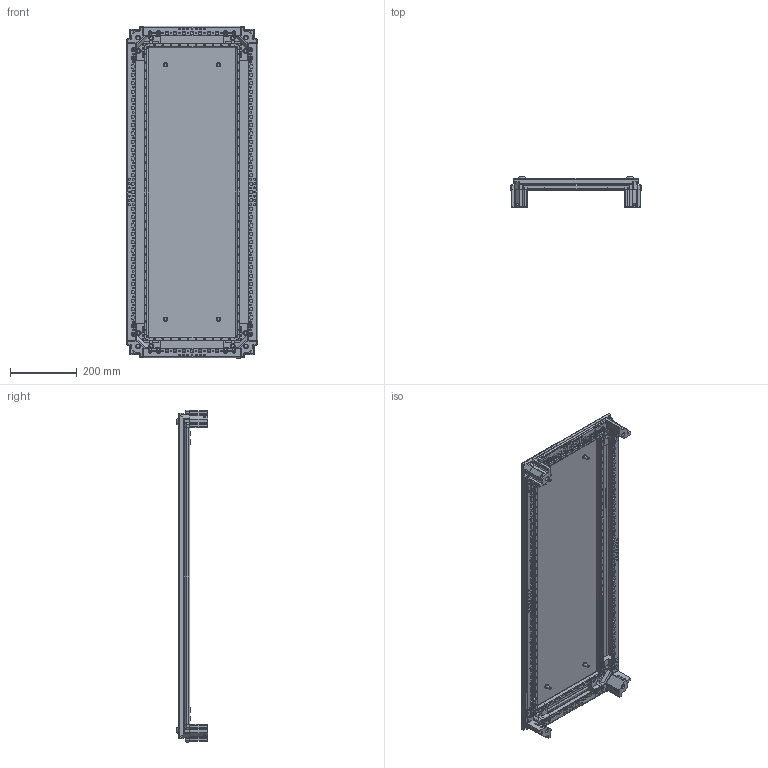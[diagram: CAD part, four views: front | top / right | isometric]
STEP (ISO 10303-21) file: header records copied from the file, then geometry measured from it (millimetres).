
FILE_DESCRIPTION(('STEP AP203'), '1');
FILE_NAME('Êðûøà è îñíîâàíèå Ø1000õÃ400 ìì IP55 OptiBox M 419577 ÊÝÀÇ', '', ('UNSPECIFIED'), ('UNSPECIFIED'), 'C3D Converter', 'C3D Toolkit', '');
FILE_SCHEMA(('CONFIG_CONTROL_DESIGN'));
Length unit declared in the file: millimetre
Bounding box: 392 x 93 x 992 mm (x, y, z)
Volume: 2080054.4 mm3; surface area: 1723313.3 mm2
Topology: 34 solids, 34 shells, 2467 faces, 6348 edges, 3992 vertices
Faces by surface type: plane 1227, cylinder 960, cone 220, sphere 28, bspline 24, torus 8
Full cylindrical faces by diameter (mm): 0.75 x4, 1 x4, 4.6 x176, 5 x60, 5.6 x16, 6 x40, 7 x4, 7.3 x16, 8 x4, 9 x16, 9.3 x4, 10.2 x4, 12 x4, 13 x24, 14 x12, 20 x4, 21 x4
Entity records: 82228 total; most frequent: CARTESIAN_POINT 21916, DIRECTION 12260, ORIENTED_EDGE 11616, EDGE_CURVE 5808, AXIS2_PLACEMENT_3D 4308, VERTEX_POINT 3992, EDGE_LOOP 3796, LINE 3644
